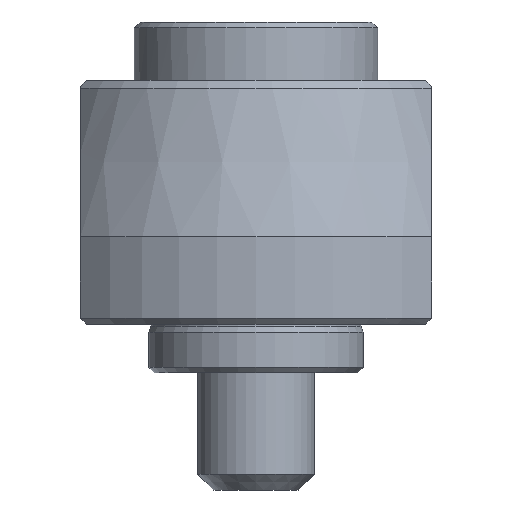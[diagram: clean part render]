
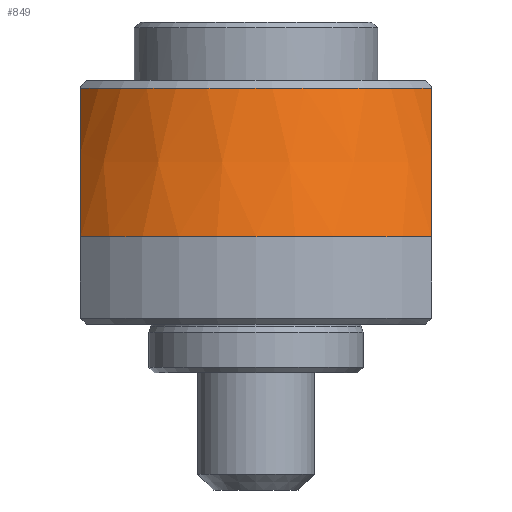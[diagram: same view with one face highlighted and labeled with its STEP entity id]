
A CAD part, left-side view. The second image highlights one B-rep face of the part: STEP entity #849.
In plain terms, the highlighted conical face has half-angle 15 degrees and reference radius 22.466 mm.
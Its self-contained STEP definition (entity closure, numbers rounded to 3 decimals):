
#849=ADVANCED_FACE('',(#2151),#2153,.T.);
#2151=FACE_BOUND('',#2152,.T.);
#2152=EDGE_LOOP('',(#3051,#3052,#3053,#3054));
#2153=CONICAL_SURFACE('',#2154,22.466,0.262);
#2154=AXIS2_PLACEMENT_3D('',#2155,#2156,#2157);
#2155=CARTESIAN_POINT('',(0.,0.,21.59));
#2156=DIRECTION('',(0.,0.,-1.));
#2157=DIRECTION('',(-0.899,-0.437,0.));
#3051=ORIENTED_EDGE('',*,*,#3517,.F.);
#3052=ORIENTED_EDGE('',*,*,#3558,.T.);
#3053=ORIENTED_EDGE('',*,*,#3559,.T.);
#3054=ORIENTED_EDGE('',*,*,#3560,.T.);
#3517=EDGE_CURVE('',#3999,#4001,#4002,.T.);
#3558=EDGE_CURVE('',#3999,#4068,#4070,.T.);
#3559=EDGE_CURVE('',#4068,#4071,#4072,.T.);
#3560=EDGE_CURVE('',#4071,#4001,#4073,.F.);
#3999=VERTEX_POINT('',#5667);
#4001=VERTEX_POINT('',#5675);
#4002=CIRCLE('',#5676,20.432);
#4068=VERTEX_POINT('',#5845);
#4070=B_SPLINE_CURVE_WITH_KNOTS('',3,
(#5849,#5850,#5851,#5852,#5853,#5854,#5855,#5856,#5857,#5858,#5859,#5860,#5861,#5862,
#5863,#5864,#5865,#5866,#5867,#5868,#5869,#5870,#5871,#5872,#5873,#5874,#5875,#5876,
#5877,#5878,#5879,#5880,#5881,#5882,#5883,#5884),
.UNSPECIFIED.,.F.,.F.,
(4,1,1,1,1,1,1,1,1,1,1,1,1,1,1,1,1,1,1,1,1,1,1,1,1,1,1,1,1,1,1,1,1,4),
(0.,0.023,0.046,0.07,0.085,0.093,
0.117,0.14,0.164,0.188,0.213,
0.238,0.263,0.277,0.289,0.316,
0.361,0.425,0.496,0.497,0.555,
0.598,0.638,0.676,0.715,0.715,
0.754,0.794,0.834,0.875,0.91,
0.916,0.958,1.),
.UNSPECIFIED.);
#4071=VERTEX_POINT('',#5885);
#4072=CIRCLE('',#5886,24.5);
#4073=B_SPLINE_CURVE_WITH_KNOTS('',3,
(#5890,#5891,#5892,#5893,#5894,#5895,#5896,#5897,#5898,#5899,#5900,#5901,#5902,#5903,
#5904,#5905,#5906,#5907,#5908,#5909,#5910,#5911,#5912,#5913,#5914,#5915,#5916,#5917,
#5918,#5919,#5920,#5921,#5922,#5923,#5924,#5925),
.UNSPECIFIED.,.F.,.F.,
(4,1,1,1,1,1,1,1,1,1,1,1,1,1,1,1,1,1,1,1,1,1,1,1,1,1,1,1,1,1,1,1,1,4),
(0.,0.023,0.046,0.07,0.085,
0.093,0.117,0.14,0.164,0.188,
0.213,0.238,0.263,0.277,0.289,
0.316,0.361,0.425,0.496,0.497,
0.555,0.598,0.638,0.676,0.715,
0.715,0.754,0.794,0.834,0.875,
0.91,0.916,0.958,1.),
.UNSPECIFIED.);
#5667=CARTESIAN_POINT('',(-9.669,18.,29.18));
#5675=CARTESIAN_POINT('',(-9.669,-18.,29.18));
#5676=AXIS2_PLACEMENT_3D('',#5677,#5678,#5679);
#5677=CARTESIAN_POINT('',(0.,0.,29.18));
#5678=DIRECTION('',(0.,0.,1.));
#5679=DIRECTION('',(-0.473,0.881,0.));
#5845=CARTESIAN_POINT('',(-16.621,18.,14.));
#5849=CARTESIAN_POINT('',(-9.669,18.,29.18));
#5850=CARTESIAN_POINT('',(-9.732,18.,29.068));
#5851=CARTESIAN_POINT('',(-9.858,18.,28.844));
#5852=CARTESIAN_POINT('',(-10.046,18.,28.505));
#5853=CARTESIAN_POINT('',(-10.212,18.,28.201));
#5854=CARTESIAN_POINT('',(-10.336,18.,27.972));
#5855=CARTESIAN_POINT('',(-10.459,18.,27.741));
#5856=CARTESIAN_POINT('',(-10.603,18.,27.471));
#5857=CARTESIAN_POINT('',(-10.787,18.,27.119));
#5858=CARTESIAN_POINT('',(-10.972,18.,26.763));
#5859=CARTESIAN_POINT('',(-11.155,18.,26.404));
#5860=CARTESIAN_POINT('',(-11.34,18.,26.039));
#5861=CARTESIAN_POINT('',(-11.526,18.,25.668));
#5862=CARTESIAN_POINT('',(-11.685,18.,25.346));
#5863=CARTESIAN_POINT('',(-11.811,18.,25.087));
#5864=CARTESIAN_POINT('',(-11.941,18.,24.821));
#5865=CARTESIAN_POINT('',(-12.143,18.,24.402));
#5866=CARTESIAN_POINT('',(-12.468,18.,23.719));
#5867=CARTESIAN_POINT('',(-12.89,18.,22.813));
#5868=CARTESIAN_POINT('',(-13.203,18.,22.125));
#5869=CARTESIAN_POINT('',(-13.499,18.,21.467));
#5870=CARTESIAN_POINT('',(-13.73,18.,20.948));
#5871=CARTESIAN_POINT('',(-14.046,18.,20.226));
#5872=CARTESIAN_POINT('',(-14.315,18.,19.605));
#5873=CARTESIAN_POINT('',(-14.572,18.,19.006));
#5874=CARTESIAN_POINT('',(-14.739,18.,18.61));
#5875=CARTESIAN_POINT('',(-14.907,18.,18.212));
#5876=CARTESIAN_POINT('',(-15.077,18.,17.806));
#5877=CARTESIAN_POINT('',(-15.331,18.,17.195));
#5878=CARTESIAN_POINT('',(-15.588,18.,16.571));
#5879=CARTESIAN_POINT('',(-15.834,18.,15.967));
#5880=CARTESIAN_POINT('',(-16.005,18.,15.543));
#5881=CARTESIAN_POINT('',(-16.178,18.,15.113));
#5882=CARTESIAN_POINT('',(-16.363,18.,14.65));
#5883=CARTESIAN_POINT('',(-16.535,18.,14.217));
#5884=CARTESIAN_POINT('',(-16.621,18.,14.));
#5885=CARTESIAN_POINT('',(-16.621,-18.,14.));
#5886=AXIS2_PLACEMENT_3D('',#5887,#5888,#5889);
#5887=CARTESIAN_POINT('',(0.,0.,14.));
#5888=DIRECTION('',(0.,0.,1.));
#5889=DIRECTION('',(-0.678,0.735,0.));
#5890=CARTESIAN_POINT('',(-9.669,-18.,29.18));
#5891=CARTESIAN_POINT('',(-9.732,-18.,29.068));
#5892=CARTESIAN_POINT('',(-9.858,-18.,28.844));
#5893=CARTESIAN_POINT('',(-10.046,-18.,28.505));
#5894=CARTESIAN_POINT('',(-10.212,-18.,28.201));
#5895=CARTESIAN_POINT('',(-10.336,-18.,27.972));
#5896=CARTESIAN_POINT('',(-10.459,-18.,27.741));
#5897=CARTESIAN_POINT('',(-10.603,-18.,27.471));
#5898=CARTESIAN_POINT('',(-10.787,-18.,27.119));
#5899=CARTESIAN_POINT('',(-10.972,-18.,26.763));
#5900=CARTESIAN_POINT('',(-11.155,-18.,26.404));
#5901=CARTESIAN_POINT('',(-11.34,-18.,26.039));
#5902=CARTESIAN_POINT('',(-11.526,-18.,25.668));
#5903=CARTESIAN_POINT('',(-11.685,-18.,25.346));
#5904=CARTESIAN_POINT('',(-11.811,-18.,25.087));
#5905=CARTESIAN_POINT('',(-11.941,-18.,24.821));
#5906=CARTESIAN_POINT('',(-12.143,-18.,24.402));
#5907=CARTESIAN_POINT('',(-12.468,-18.,23.719));
#5908=CARTESIAN_POINT('',(-12.89,-18.,22.813));
#5909=CARTESIAN_POINT('',(-13.203,-18.,22.125));
#5910=CARTESIAN_POINT('',(-13.499,-18.,21.467));
#5911=CARTESIAN_POINT('',(-13.73,-18.,20.948));
#5912=CARTESIAN_POINT('',(-14.046,-18.,20.226));
#5913=CARTESIAN_POINT('',(-14.315,-18.,19.605));
#5914=CARTESIAN_POINT('',(-14.572,-18.,19.006));
#5915=CARTESIAN_POINT('',(-14.739,-18.,18.61));
#5916=CARTESIAN_POINT('',(-14.907,-18.,18.212));
#5917=CARTESIAN_POINT('',(-15.077,-18.,17.806));
#5918=CARTESIAN_POINT('',(-15.331,-18.,17.195));
#5919=CARTESIAN_POINT('',(-15.588,-18.,16.571));
#5920=CARTESIAN_POINT('',(-15.834,-18.,15.967));
#5921=CARTESIAN_POINT('',(-16.005,-18.,15.543));
#5922=CARTESIAN_POINT('',(-16.178,-18.,15.113));
#5923=CARTESIAN_POINT('',(-16.363,-18.,14.65));
#5924=CARTESIAN_POINT('',(-16.535,-18.,14.217));
#5925=CARTESIAN_POINT('',(-16.621,-18.,14.));
